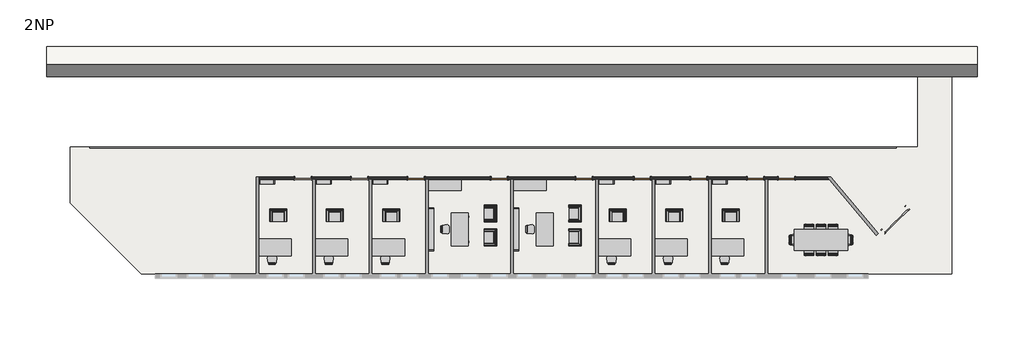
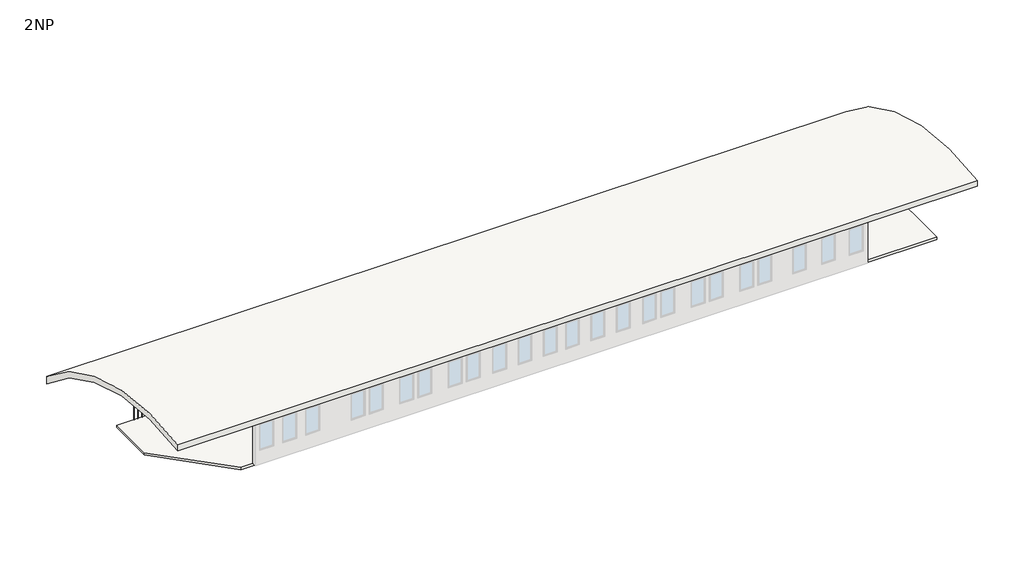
# One storey, part 2 of 2: 45 furniture elements, 7 doors, 1 railing, 1 roof, 1 slab, 1 wall.
"""IFC4 building model written with IfcOpenShell, lengths in millimetres."""

from ifc_helpers import new_model, si_unit, point, frame, frame_2d, origin, place, context, project, spatial, polyline, circle_curve, trimmed, segment, composite_curve, outline, extrude, faceted_brep, transform, mapped, element, save
from components import m_single_flush_0915_x_2032mm_1012e85d, m_single_flush_0915_x_2032mm_d7cd756b, chair_desk_4_chair_task_arms_3b363349, chair_desk_5_chair_task_b7f3823b, m_chair_corbu_m_chair_corbu_2764bdef, m_chair_desk_desk_chair_ccc35c8f, m_credenza_1830_x_0610mm_1080a9db, m_desk_1830_x_915mm_d81ff609, m_shelving_0915_x_0254_x_1830mm_1d5e155e, m_shelving_2440_x_0305_x_2134mm_59c1a9e4, table_conference_w_chairs_1200_x_3050mm_930714f4, railing_1100mm_11e5196f, railing_1100mm_f5e6f717

model = new_model("IFC4")

# Units and contexts
model_context = context("Model", 3, world=origin())
ifc_project = project(units=[si_unit("LENGTHUNIT", "METRE", prefix="MILLI")], contexts=[model_context])

# Site, building, storey
site = spatial("IfcSite", under=ifc_project)
building = spatial("IfcBuilding", under=site)
storey = spatial("IfcBuildingStorey", under=building, Name="2NP", Elevation=4000.0)

# Doors
placement = place(None, origin())
m_single_flush_0915_x_2032mm_shape = m_single_flush_0915_x_2032mm_1012e85d(model_context)
element("IfcDoor", 1, ObjectType="M_Single-Flush : 0915 x 2032mm", at=placement, inside=storey, context=model_context, shape_type="MappedRepresentation", body=[
    mapped(m_single_flush_0915_x_2032mm_shape, transform((8162.4255273, 791.5551306, 4000.0), x_axis=(1.0, 0.0, 0.0), y_axis=(0.0, 1.0, 0.0), z_axis=(0.0, 0.0, 1.0))),
])
element("IfcDoor", 2, ObjectType="M_Single-Flush : 0915 x 2032mm", at=placement, inside=storey, context=model_context, shape_type="MappedRepresentation", body=[
    mapped(m_single_flush_0915_x_2032mm_shape, transform((24162.4255273, 791.5551306, 4000.0), x_axis=(1.0, 0.0, 0.0), y_axis=(0.0, 1.0, 0.0), z_axis=(0.0, 0.0, 1.0))),
])
element("IfcDoor", 3, ObjectType="M_Single-Flush : 0915 x 2032mm", at=placement, inside=storey, context=model_context, shape_type="MappedRepresentation", body=[
    mapped(m_single_flush_0915_x_2032mm_shape, transform((27362.4255273, 791.5551306, 4000.0), x_axis=(1.0, 0.0, 0.0), y_axis=(0.0, 1.0, 0.0), z_axis=(0.0, 0.0, 1.0))),
])
element("IfcDoor", 4, ObjectType="M_Single-Flush : 0915 x 2032mm", at=placement, inside=storey, context=model_context, shape_type="MappedRepresentation", body=[
    mapped(m_single_flush_0915_x_2032mm_shape, transform((12862.4255273, 791.5551306, 4000.0), x_axis=(1.0, 0.0, 0.0), y_axis=(0.0, 1.0, 0.0), z_axis=(0.0, 0.0, 1.0))),
])
element("IfcDoor", 5, ObjectType="M_Single-Flush : 0915 x 2032mm", at=placement, inside=storey, context=model_context, shape_type="MappedRepresentation", body=[
    mapped(m_single_flush_0915_x_2032mm_shape, transform((20962.4255273, 791.5551306, 4000.0), x_axis=(1.0, 0.0, 0.0), y_axis=(0.0, 1.0, 0.0), z_axis=(0.0, 0.0, 1.0))),
])
element("IfcDoor", 6, ObjectType="M_Single-Flush : 0915 x 2032mm", at=placement, inside=storey, context=model_context, shape_type="MappedRepresentation", body=[
    mapped(m_single_flush_0915_x_2032mm_shape, transform((17662.4255273, 791.5551306, 4000.0), x_axis=(1.0, 0.0, 0.0), y_axis=(0.0, 1.0, 0.0), z_axis=(0.0, 0.0, 1.0))),
])
m_single_flush_0915_x_2032mm_2_shape = m_single_flush_0915_x_2032mm_d7cd756b(model_context)
element("IfcDoor", 7, ObjectType="M_Single-Flush : 0915 x 2032mm", at=placement, inside=storey, context=model_context, shape_type="MappedRepresentation", body=[
    mapped(m_single_flush_0915_x_2032mm_2_shape, transform((29115.9255273, 791.5551306, 4000.0), x_axis=(-1.0, 0.0, 0.0), y_axis=(0.0, -1.0, 0.0), z_axis=(0.0, 0.0, 1.0))),
])

# Furniture
chair_desk_4_chair_task_arms_shape = chair_desk_4_chair_task_arms_3b363349(model_context)
element("IfcFurniture", 8, ObjectType="Chair - Desk (4) : Chair-Task Arms", at=placement, inside=storey, context=model_context, shape_type="MappedRepresentation", body=[
    mapped(chair_desk_4_chair_task_arms_shape, transform((32615.6301008, -2847.5591131, 4000.0), x_axis=(0.0, 1.0, 0.0), y_axis=(-1.0, 0.0, 0.0), z_axis=(0.0, 0.0, 1.0))),
])
element("IfcFurniture", 9, ObjectType="Chair - Desk (4) : Chair-Task Arms", at=placement, inside=storey, context=model_context, shape_type="MappedRepresentation", body=[
    mapped(chair_desk_4_chair_task_arms_shape, transform((29527.7382975, -2565.5774738, 4000.0), x_axis=(0.0, -1.0000000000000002, 0.0), y_axis=(1.0000000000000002, 0.0, 0.0), z_axis=(0.0, 0.0, 1.0))),
])
chair_desk_5_chair_task_shape = chair_desk_5_chair_task_b7f3823b(model_context)
element("IfcFurniture", 10, ObjectType="Chair - Desk (5) : Chair-Task", at=placement, inside=storey, context=model_context, shape_type="MappedRepresentation", body=[
    mapped(chair_desk_5_chair_task_shape, transform((31897.6750188, -2087.6223918, 4000.0), x_axis=(-1.0, 0.0, 0.0), y_axis=(0.0, -1.0, 0.0), z_axis=(0.0, 0.0, 1.0))),
])
element("IfcFurniture", 11, ObjectType="Chair - Desk (5) : Chair-Task", at=placement, inside=storey, context=model_context, shape_type="MappedRepresentation", body=[
    mapped(chair_desk_5_chair_task_shape, transform((31615.6933794, -3325.5141951, 4000.0), x_axis=(1.0, 0.0, 0.0), y_axis=(0.0, 1.0, 0.0), z_axis=(0.0, 0.0, 1.0))),
])
element("IfcFurniture", 12, ObjectType="Chair - Desk (5) : Chair-Task", at=placement, inside=storey, context=model_context, shape_type="MappedRepresentation", body=[
    mapped(chair_desk_5_chair_task_shape, transform((30527.9250188, -2087.6223918, 4000.0), x_axis=(-1.0, 0.0, 0.0), y_axis=(0.0, -1.0, 0.0), z_axis=(0.0, 0.0, 1.0))),
])
element("IfcFurniture", 13, ObjectType="Chair - Desk (5) : Chair-Task", at=placement, inside=storey, context=model_context, shape_type="MappedRepresentation", body=[
    mapped(chair_desk_5_chair_task_shape, transform((30245.9433794, -3325.5141951, 4000.0), x_axis=(1.0, 0.0, 0.0), y_axis=(0.0, 1.0, 0.0), z_axis=(0.0, 0.0, 1.0))),
])
element("IfcFurniture", 14, ObjectType="Chair - Desk (5) : Chair-Task", at=placement, inside=storey, context=model_context, shape_type="MappedRepresentation", body=[
    mapped(chair_desk_5_chair_task_shape, transform((31212.8000188, -2087.6223918, 4000.0), x_axis=(-1.0, 0.0, 0.0), y_axis=(0.0, -1.0, 0.0), z_axis=(0.0, 0.0, 1.0))),
])
element("IfcFurniture", 15, ObjectType="Chair - Desk (5) : Chair-Task", at=placement, inside=storey, context=model_context, shape_type="MappedRepresentation", body=[
    mapped(chair_desk_5_chair_task_shape, transform((30930.8183794, -3325.5141951, 4000.0), x_axis=(1.0, 0.0, 0.0), y_axis=(0.0, 1.0, 0.0), z_axis=(0.0, 0.0, 1.0))),
])
m_chair_corbu_m_chair_corbu_shape = m_chair_corbu_m_chair_corbu_2764bdef(model_context)
element("IfcFurniture", 16, ObjectType="M_Chair-Corbu : M_Chair-Corbu", at=placement, inside=storey, context=model_context, shape_type="MappedRepresentation", body=[
    mapped(m_chair_corbu_m_chair_corbu_shape, transform((6189.3517568, -1787.3719186, 4000.0), x_axis=(1.0, 0.0, 0.0), y_axis=(0.0, 1.0, 0.0), z_axis=(0.0, 0.0, 1.0))),
])
element("IfcFurniture", 17, ObjectType="M_Chair-Corbu : M_Chair-Corbu", at=placement, inside=storey, context=model_context, shape_type="MappedRepresentation", body=[
    mapped(m_chair_corbu_m_chair_corbu_shape, transform((-210.6482432, -1787.3719186, 4000.0), x_axis=(1.0, 0.0, 0.0), y_axis=(0.0, 1.0, 0.0), z_axis=(0.0, 0.0, 1.0))),
])
element("IfcFurniture", 18, ObjectType="M_Chair-Corbu : M_Chair-Corbu", at=placement, inside=storey, context=model_context, shape_type="MappedRepresentation", body=[
    mapped(m_chair_corbu_m_chair_corbu_shape, transform((2989.3517568, -1787.3719186, 4000.0), x_axis=(1.0, 0.0, 0.0), y_axis=(0.0, 1.0, 0.0), z_axis=(0.0, 0.0, 1.0))),
])
element("IfcFurniture", 19, ObjectType="M_Chair-Corbu : M_Chair-Corbu", at=placement, inside=storey, context=model_context, shape_type="MappedRepresentation", body=[
    mapped(m_chair_corbu_m_chair_corbu_shape, transform((22189.3517568, -1787.3719186, 4000.0), x_axis=(1.0, 0.0, 0.0), y_axis=(0.0, 1.0, 0.0), z_axis=(0.0, 0.0, 1.0))),
])
element("IfcFurniture", 20, ObjectType="M_Chair-Corbu : M_Chair-Corbu", at=placement, inside=storey, context=model_context, shape_type="MappedRepresentation", body=[
    mapped(m_chair_corbu_m_chair_corbu_shape, transform((25389.3517568, -1787.3719186, 4000.0), x_axis=(1.0, 0.0, 0.0), y_axis=(0.0, 1.0, 0.0), z_axis=(0.0, 0.0, 1.0))),
])
element("IfcFurniture", 21, ObjectType="M_Chair-Corbu : M_Chair-Corbu", at=placement, inside=storey, context=model_context, shape_type="MappedRepresentation", body=[
    mapped(m_chair_corbu_m_chair_corbu_shape, transform((11895.9484781, -647.2210989, 4000.0), x_axis=(0.0, -1.0, 0.0), y_axis=(1.0, 0.0, 0.0), z_axis=(0.0, 0.0, 1.0))),
])
element("IfcFurniture", 22, ObjectType="M_Chair-Corbu : M_Chair-Corbu", at=placement, inside=storey, context=model_context, shape_type="MappedRepresentation", body=[
    mapped(m_chair_corbu_m_chair_corbu_shape, transform((18989.3517568, -1787.3719186, 4000.0), x_axis=(1.0, 0.0, 0.0), y_axis=(0.0, 1.0, 0.0), z_axis=(0.0, 0.0, 1.0))),
])
element("IfcFurniture", 23, ObjectType="M_Chair-Corbu : M_Chair-Corbu", at=placement, inside=storey, context=model_context, shape_type="MappedRepresentation", body=[
    mapped(m_chair_corbu_m_chair_corbu_shape, transform((11895.9484781, -1992.4210989, 4000.0), x_axis=(0.0, -1.0, 0.0), y_axis=(1.0, 0.0, 0.0), z_axis=(0.0, 0.0, 1.0))),
])
element("IfcFurniture", 24, ObjectType="M_Chair-Corbu : M_Chair-Corbu", at=placement, inside=storey, context=model_context, shape_type="MappedRepresentation", body=[
    mapped(m_chair_corbu_m_chair_corbu_shape, transform((16695.9484781, -647.2210989, 4000.0), x_axis=(0.0, -1.0, 0.0), y_axis=(1.0, 0.0, 0.0), z_axis=(0.0, 0.0, 1.0))),
])
element("IfcFurniture", 25, ObjectType="M_Chair-Corbu : M_Chair-Corbu", at=placement, inside=storey, context=model_context, shape_type="MappedRepresentation", body=[
    mapped(m_chair_corbu_m_chair_corbu_shape, transform((16695.9484781, -1992.4210989, 4000.0), x_axis=(0.0, -1.0, 0.0), y_axis=(1.0, 0.0, 0.0), z_axis=(0.0, 0.0, 1.0))),
])
m_chair_desk_desk_chair_shape = m_chair_desk_desk_chair_ccc35c8f(model_context)
element("IfcFurniture", 26, ObjectType="M_Chair-Desk : Desk Chair", at=placement, inside=storey, context=model_context, shape_type="MappedRepresentation", body=[
    mapped(m_chair_desk_desk_chair_shape, transform((19.9255273, -4017.6948694, 4000.0), x_axis=(1.0, 0.0, 0.0), y_axis=(0.0, 1.0, 0.0), z_axis=(0.0, 0.0, 1.0))),
])
element("IfcFurniture", 27, ObjectType="M_Chair-Desk : Desk Chair", at=placement, inside=storey, context=model_context, shape_type="MappedRepresentation", body=[
    mapped(m_chair_desk_desk_chair_shape, transform((3219.9255273, -4017.6948694, 4000.0), x_axis=(1.0, 0.0, 0.0), y_axis=(0.0, 1.0, 0.0), z_axis=(0.0, 0.0, 1.0))),
])
element("IfcFurniture", 28, ObjectType="M_Chair-Desk : Desk Chair", at=placement, inside=storey, context=model_context, shape_type="MappedRepresentation", body=[
    mapped(m_chair_desk_desk_chair_shape, transform((6419.9255273, -4017.6948694, 4000.0), x_axis=(1.0, 0.0, 0.0), y_axis=(0.0, 1.0, 0.0), z_axis=(0.0, 0.0, 1.0))),
])
element("IfcFurniture", 29, ObjectType="M_Chair-Desk : Desk Chair", at=placement, inside=storey, context=model_context, shape_type="MappedRepresentation", body=[
    mapped(m_chair_desk_desk_chair_shape, transform((22419.9255273, -4017.6948694, 4000.0), x_axis=(1.0, 0.0, 0.0), y_axis=(0.0, 1.0, 0.0), z_axis=(0.0, 0.0, 1.0))),
])
element("IfcFurniture", 30, ObjectType="M_Chair-Desk : Desk Chair", at=placement, inside=storey, context=model_context, shape_type="MappedRepresentation", body=[
    mapped(m_chair_desk_desk_chair_shape, transform((25619.9255273, -4017.6948694, 4000.0), x_axis=(1.0, 0.0, 0.0), y_axis=(0.0, 1.0, 0.0), z_axis=(0.0, 0.0, 1.0))),
])
element("IfcFurniture", 31, ObjectType="M_Chair-Desk : Desk Chair", at=placement, inside=storey, context=model_context, shape_type="MappedRepresentation", body=[
    mapped(m_chair_desk_desk_chair_shape, transform((9635.1978774, -2107.9948694, 4000.0), x_axis=(0.0, -1.0, 0.0), y_axis=(1.0, 0.0, 0.0), z_axis=(0.0, 0.0, 1.0))),
])
element("IfcFurniture", 32, ObjectType="M_Chair-Desk : Desk Chair", at=placement, inside=storey, context=model_context, shape_type="MappedRepresentation", body=[
    mapped(m_chair_desk_desk_chair_shape, transform((19219.9255273, -4017.6948694, 4000.0), x_axis=(1.0, 0.0, 0.0), y_axis=(0.0, 1.0, 0.0), z_axis=(0.0, 0.0, 1.0))),
])
element("IfcFurniture", 33, ObjectType="M_Chair-Desk : Desk Chair", at=placement, inside=storey, context=model_context, shape_type="MappedRepresentation", body=[
    mapped(m_chair_desk_desk_chair_shape, transform((14435.1978774, -2107.9948694, 4000.0), x_axis=(0.0, -1.0, 0.0), y_axis=(1.0, 0.0, 0.0), z_axis=(0.0, 0.0, 1.0))),
])
m_credenza_1830_x_0610mm_shape = m_credenza_1830_x_0610mm_1080a9db(model_context)
element("IfcFurniture", 34, ObjectType="M_Credenza : 1830 x 0610mm", at=placement, inside=storey, context=model_context, shape_type="MappedRepresentation", body=[
    mapped(m_credenza_1830_x_0610mm_shape, transform((9713.881265, 412.7248027, 4000.0), x_axis=(1.0, 0.0, 0.0), y_axis=(0.0, 1.0, 0.0), z_axis=(0.0, 0.0, 1.0))),
])
element("IfcFurniture", 35, ObjectType="M_Credenza : 1830 x 0610mm", at=placement, inside=storey, context=model_context, shape_type="MappedRepresentation", body=[
    mapped(m_credenza_1830_x_0610mm_shape, transform((14513.881265, 412.7248027, 4000.0), x_axis=(1.0, 0.0, 0.0), y_axis=(0.0, 1.0, 0.0), z_axis=(0.0, 0.0, 1.0))),
])
m_desk_1830_x_915mm_shape = m_desk_1830_x_915mm_d81ff609(model_context)
element("IfcFurniture", 36, ObjectType="M_Desk : 1830 x 915mm", at=placement, inside=storey, context=model_context, shape_type="MappedRepresentation", body=[
    mapped(m_desk_1830_x_915mm_shape, transform((-741.5744727, -3592.6948694, 4000.0), x_axis=(1.0, 0.0, 0.0), y_axis=(0.0, 1.0, 0.0), z_axis=(0.0, 0.0, 1.0))),
])
element("IfcFurniture", 37, ObjectType="M_Desk : 1830 x 915mm", at=placement, inside=storey, context=model_context, shape_type="MappedRepresentation", body=[
    mapped(m_desk_1830_x_915mm_shape, transform((2458.4255273, -3592.6948694, 4000.0), x_axis=(1.0, 0.0, 0.0), y_axis=(0.0, 1.0, 0.0), z_axis=(0.0, 0.0, 1.0))),
])
element("IfcFurniture", 38, ObjectType="M_Desk : 1830 x 915mm", at=placement, inside=storey, context=model_context, shape_type="MappedRepresentation", body=[
    mapped(m_desk_1830_x_915mm_shape, transform((5658.4255273, -3592.6948694, 4000.0), x_axis=(1.0, 0.0, 0.0), y_axis=(0.0, 1.0, 0.0), z_axis=(0.0, 0.0, 1.0))),
])
element("IfcFurniture", 39, ObjectType="M_Desk : 1830 x 915mm", at=placement, inside=storey, context=model_context, shape_type="MappedRepresentation", body=[
    mapped(m_desk_1830_x_915mm_shape, transform((21658.4255273, -3592.6948694, 4000.0), x_axis=(1.0, 0.0, 0.0), y_axis=(0.0, 1.0, 0.0), z_axis=(0.0, 0.0, 1.0))),
])
element("IfcFurniture", 40, ObjectType="M_Desk : 1830 x 915mm", at=placement, inside=storey, context=model_context, shape_type="MappedRepresentation", body=[
    mapped(m_desk_1830_x_915mm_shape, transform((24858.4255273, -3592.6948694, 4000.0), x_axis=(1.0, 0.0, 0.0), y_axis=(0.0, 1.0, 0.0), z_axis=(0.0, 0.0, 1.0))),
])
element("IfcFurniture", 41, ObjectType="M_Desk : 1830 x 915mm", at=placement, inside=storey, context=model_context, shape_type="MappedRepresentation", body=[
    mapped(m_desk_1830_x_915mm_shape, transform((10176.162903, -1192.9948694, 4000.0), x_axis=(0.0, -1.0, 0.0), y_axis=(1.0, 0.0, 0.0), z_axis=(0.0, 0.0, 1.0))),
])
element("IfcFurniture", 42, ObjectType="M_Desk : 1830 x 915mm", at=placement, inside=storey, context=model_context, shape_type="MappedRepresentation", body=[
    mapped(m_desk_1830_x_915mm_shape, transform((18458.4255273, -3592.6948694, 4000.0), x_axis=(1.0, 0.0, 0.0), y_axis=(0.0, 1.0, 0.0), z_axis=(0.0, 0.0, 1.0))),
])
element("IfcFurniture", 43, ObjectType="M_Desk : 1830 x 915mm", at=placement, inside=storey, context=model_context, shape_type="MappedRepresentation", body=[
    mapped(m_desk_1830_x_915mm_shape, transform((14976.162903, -1192.9948694, 4000.0), x_axis=(0.0, -1.0, 0.0), y_axis=(1.0, 0.0, 0.0), z_axis=(0.0, 0.0, 1.0))),
])
m_shelving_0915_x_0254_x_1830mm_shape = m_shelving_0915_x_0254_x_1830mm_1d5e155e(model_context)
element("IfcFurniture", 44, ObjectType="M_Shelving : 0915 x 0254 x 1830mm", at=placement, inside=storey, context=model_context, shape_type="MappedRepresentation", body=[
    mapped(m_shelving_0915_x_0254_x_1830mm_shape, transform((-284.0744727, 290.5051306, 4000.0), x_axis=(-1.0, 0.0, 0.0), y_axis=(0.0, -1.0, 0.0), z_axis=(0.0, 0.0, 1.0))),
])
element("IfcFurniture", 45, ObjectType="M_Shelving : 0915 x 0254 x 1830mm", at=placement, inside=storey, context=model_context, shape_type="MappedRepresentation", body=[
    mapped(m_shelving_0915_x_0254_x_1830mm_shape, transform((2915.9255273, 290.5051306, 4000.0), x_axis=(-1.0, 0.0, 0.0), y_axis=(0.0, -1.0, 0.0), z_axis=(0.0, 0.0, 1.0))),
])
element("IfcFurniture", 46, ObjectType="M_Shelving : 0915 x 0254 x 1830mm", at=placement, inside=storey, context=model_context, shape_type="MappedRepresentation", body=[
    mapped(m_shelving_0915_x_0254_x_1830mm_shape, transform((6115.9255273, 290.5051306, 4000.0), x_axis=(-1.0, 0.0, 0.0), y_axis=(0.0, -1.0, 0.0), z_axis=(0.0, 0.0, 1.0))),
])
element("IfcFurniture", 47, ObjectType="M_Shelving : 0915 x 0254 x 1830mm", at=placement, inside=storey, context=model_context, shape_type="MappedRepresentation", body=[
    mapped(m_shelving_0915_x_0254_x_1830mm_shape, transform((22115.9255273, 290.5051306, 4000.0), x_axis=(-1.0, 0.0, 0.0), y_axis=(0.0, -1.0, 0.0), z_axis=(0.0, 0.0, 1.0))),
])
element("IfcFurniture", 48, ObjectType="M_Shelving : 0915 x 0254 x 1830mm", at=placement, inside=storey, context=model_context, shape_type="MappedRepresentation", body=[
    mapped(m_shelving_0915_x_0254_x_1830mm_shape, transform((25315.9255273, 290.5051306, 4000.0), x_axis=(-1.0, 0.0, 0.0), y_axis=(0.0, -1.0, 0.0), z_axis=(0.0, 0.0, 1.0))),
])
element("IfcFurniture", 49, ObjectType="M_Shelving : 0915 x 0254 x 1830mm", at=placement, inside=storey, context=model_context, shape_type="MappedRepresentation", body=[
    mapped(m_shelving_0915_x_0254_x_1830mm_shape, transform((18915.9255273, 290.5051306, 4000.0), x_axis=(-1.0, 0.0, 0.0), y_axis=(0.0, -1.0, 0.0), z_axis=(0.0, 0.0, 1.0))),
])
m_shelving_2440_x_0305_x_2134mm_shape = m_shelving_2440_x_0305_x_2134mm_59c1a9e4(model_context)
element("IfcFurniture", 50, ObjectType="M_Shelving : 2440 x 0305 x 2134mm", at=placement, inside=storey, context=model_context, shape_type="MappedRepresentation", body=[
    mapped(m_shelving_2440_x_0305_x_2134mm_shape, transform((9315.7255273, -2107.9948694, 4000.0), x_axis=(0.0, -1.0, 0.0), y_axis=(1.0, 0.0, 0.0), z_axis=(0.0, 0.0, 1.0))),
])
element("IfcFurniture", 51, ObjectType="M_Shelving : 2440 x 0305 x 2134mm", at=placement, inside=storey, context=model_context, shape_type="MappedRepresentation", body=[
    mapped(m_shelving_2440_x_0305_x_2134mm_shape, transform((14115.7255273, -2107.9948694, 4000.0), x_axis=(0.0, -1.0, 0.0), y_axis=(1.0, 0.0, 0.0), z_axis=(0.0, 0.0, 1.0))),
])
table_conference_w_chairs_1200_x_3050mm_shape = table_conference_w_chairs_1200_x_3050mm_930714f4(model_context)
element("IfcFurniture", 52, ObjectType="Table - Conference w Chairs : 1200 x 3050mm", at=placement, inside=storey, context=model_context, shape_type="MappedRepresentation", body=[
    mapped(table_conference_w_chairs_1200_x_3050mm_shape, transform((31071.6841991, -2706.5682935, 4000.0), x_axis=(-1.0, 0.0, 0.0), y_axis=(0.0, -1.0, 0.0), z_axis=(0.0, 0.0, 1.0))),
])

# Railing
railing_1100mm_shape = railing_1100mm_11e5196f(model_context)
railing_1100mm_2_shape = railing_1100mm_f5e6f717(model_context)
element("IfcRailing", 53, ObjectType="1100mm", at=placement, inside=storey, context=model_context, shape_type="MappedRepresentation", body=[
    mapped(railing_1100mm_shape, transform((0.0, 0.0, 0.0), x_axis=(1.0, 0.0, 0.0), y_axis=(0.0, 1.0, 0.0), z_axis=(0.0, 0.0, 1.0))),
    mapped(railing_1100mm_2_shape, transform((0.0, 0.0, 0.0), x_axis=(1.0, 0.0, 0.0), y_axis=(0.0, 1.0, 0.0), z_axis=(0.0, 0.0, 1.0))),
])

# Roof
element("IfcRoof", 54, ObjectType="Generic - 400mm", at=placement, inside=storey, context=model_context, shape_type="SweptSolid", body=[
    extrude(outline(composite_curve([segment(trimmed(circle_curve(frame_2d((-3782.5530793, -9232.9575956)), 18209.3296337), [point((-6745.0106033, 8733.7764183))], [point((8250.6718533, 4433.8336676))], False, "CARTESIAN"), True, "CONTINUOUS"), segment(polyline([(8250.6718533, 4433.8336676), (8250.6718533, 3896.1596529)]), True, "CONTINUOUS"), segment(trimmed(circle_curve(frame_2d((-3782.5530793, -9232.9575956)), 17809.3296337), [point((8250.6718533, 3896.1596529))], [point((-6745.0106033, 8328.2515718))], True, "CARTESIAN"), True, "CONTINUOUS"), segment(polyline([(-6745.0106033, 8328.2515718), (-6745.0106033, 8733.7764183)]), True, "CONTINUOUS")], self_intersect=False)), frame((-12744.3244727, 0.0, 0.0), z_axis=(1.0, 0.0, 0.0), x_axis=(0.0, 1.0, 0.0)), (0.0, 0.0, 1.0), 52667.0),
])

# Slab
element("IfcSlab", 55, ObjectType="Generic 150mm", at=placement, inside=storey, context=model_context, shape_type="SweptSolid", body=[
    extrude(outline(polyline([(-11410.8244727, -601.928028), (-11410.8244727, 2541.5551306), (36558.4255273, 2541.5551306), (36558.4255273, 7108.0551306), (38455.6755273, 7108.0551306), (38455.6755273, -4624.9448694), (-7387.8076313, -4624.9448694), (-11410.8244727, -601.928028)])), frame((0.0, 0.0, 3850.0), z_axis=(0.0, 0.0, 1.0), x_axis=(1.0, 0.0, 0.0)), (0.0, 0.0, 1.0), 150.0),
])

# Wall
element("IfcWall", 56, ObjectType="Interior - 138mm Partition (1-hr)", at=placement, inside=storey, context=model_context, shape_type="Brep", body=[
    faceted_brep([(20504.9255273, 860.8051306, 4000.0), (18119.9255273, 860.8051306, 4000.0), (18119.9255273, 860.8051306, 6032.0), (17204.9255273, 860.8051306, 6032.0), (17204.9255273, 860.8051306, 4000.0), (13319.9255273, 860.8051306, 4000.0), (13319.9255273, 860.8051306, 6032.0), (12404.9255273, 860.8051306, 6032.0), (12404.9255273, 860.8051306, 4000.0), (8619.9255273, 860.8051306, 4000.0), (8619.9255273, 860.8051306, 6032.0), (7704.9255273, 860.8051306, 6032.0), (7704.9255273, 860.8051306, 4000.0), (5419.9255273, 860.8051306, 4000.0), (5419.9255273, 860.8051306, 6032.0), (4504.9255273, 860.8051306, 6032.0), (4504.9255273, 860.8051306, 4000.0), (2219.9255273, 860.8051306, 4000.0), (2219.9255273, 860.8051306, 6032.0), (1304.9255273, 860.8051306, 6032.0), (1304.9255273, 860.8051306, 4000.0), (-741.5744727, 860.8051306, 4000.0), (-741.5744727, 860.8051306, 7700.0), (31432.8028061, 860.8051306, 7700.0), (31432.8028061, 860.8051306, 4000.0), (29573.4255273, 860.8051306, 4000.0), (29573.4255273, 860.8051306, 6032.0), (28658.4255273, 860.8051306, 6032.0), (28658.4255273, 860.8051306, 4000.0), (27819.9255273, 860.8051306, 4000.0), (27819.9255273, 860.8051306, 6032.0), (26904.9255273, 860.8051306, 6032.0), (26904.9255273, 860.8051306, 4000.0), (24619.9255273, 860.8051306, 4000.0), (24619.9255273, 860.8051306, 6032.0), (23704.9255273, 860.8051306, 6032.0), (23704.9255273, 860.8051306, 4000.0), (21419.9255273, 860.8051306, 4000.0), (21419.9255273, 860.8051306, 6032.0), (20504.9255273, 860.8051306, 6032.0), (18119.9255273, 722.3051306, 6032.0), (18119.9255273, 722.3051306, 4000.0), (18319.9255273, 722.3051306, 4000.0), (18458.4255273, 722.3051306, 4000.0), (20504.9255273, 722.3051306, 4000.0), (20504.9255273, 722.3051306, 6032.0), (21419.9255273, 722.3051306, 6032.0), (21419.9255273, 722.3051306, 4000.0), (21519.9255273, 722.3051306, 4000.0), (21658.4255273, 722.3051306, 4000.0), (23704.9255273, 722.3051306, 4000.0), (23704.9255273, 722.3051306, 6032.0), (24619.9255273, 722.3051306, 6032.0), (24619.9255273, 722.3051306, 4000.0), (24719.9255273, 722.3051306, 4000.0), (24858.4255273, 722.3051306, 4000.0), (26904.9255273, 722.3051306, 4000.0), (26904.9255273, 722.3051306, 6032.0), (27819.9255273, 722.3051306, 6032.0), (27819.9255273, 722.3051306, 4000.0), (27919.9255273, 722.3051306, 4000.0), (28058.4255273, 722.3051306, 4000.0), (28658.4255273, 722.3051306, 4000.0), (28658.4255273, 722.3051306, 6032.0), (29573.4255273, 722.3051306, 6032.0), (29573.4255273, 722.3051306, 4000.0), (31549.018105, 722.3051306, 4000.0), (31549.018105, 722.3051306, 7700.0), (28058.4255273, 722.3051306, 7700.0), (27919.9255273, 722.3051306, 7700.0), (24858.4255273, 722.3051306, 7700.0), (24719.9255273, 722.3051306, 7700.0), (21658.4255273, 722.3051306, 7700.0), (21519.9255273, 722.3051306, 7700.0), (18458.4255273, 722.3051306, 7700.0), (18319.9255273, 722.3051306, 7700.0), (13658.4255273, 722.3051306, 7700.0), (13519.9255273, 722.3051306, 7700.0), (8858.4255273, 722.3051306, 7700.0), (8719.9255273, 722.3051306, 7700.0), (5658.4255273, 722.3051306, 7700.0), (5519.9255273, 722.3051306, 7700.0), (2458.4255273, 722.3051306, 7700.0), (2319.9255273, 722.3051306, 7700.0), (-741.5744727, 722.3051306, 7700.0), (-741.5744727, 722.3051306, 4000.0), (1304.9255273, 722.3051306, 4000.0), (1304.9255273, 722.3051306, 6032.0), (2219.9255273, 722.3051306, 6032.0), (2219.9255273, 722.3051306, 4000.0), (2319.9255273, 722.3051306, 4000.0), (2458.4255273, 722.3051306, 4000.0), (4504.9255273, 722.3051306, 4000.0), (4504.9255273, 722.3051306, 6032.0), (5419.9255273, 722.3051306, 6032.0), (5419.9255273, 722.3051306, 4000.0), (5519.9255273, 722.3051306, 4000.0), (5658.4255273, 722.3051306, 4000.0), (7704.9255273, 722.3051306, 4000.0), (7704.9255273, 722.3051306, 6032.0), (8619.9255273, 722.3051306, 6032.0), (8619.9255273, 722.3051306, 4000.0), (8719.9255273, 722.3051306, 4000.0), (8858.4255273, 722.3051306, 4000.0), (12404.9255273, 722.3051306, 4000.0), (12404.9255273, 722.3051306, 6032.0), (13319.9255273, 722.3051306, 6032.0), (13319.9255273, 722.3051306, 4000.0), (13519.9255273, 722.3051306, 4000.0), (13658.4255273, 722.3051306, 4000.0), (17204.9255273, 722.3051306, 4000.0), (17204.9255273, 722.3051306, 6032.0)], [[[0, 1, 2, 3, 4, 5, 6, 7, 8, 9, 10, 11, 12, 13, 14, 15, 16, 17, 18, 19, 20, 21, 22, 23, 24, 25, 26, 27, 28, 29, 30, 31, 32, 33, 34, 35, 36, 37, 38, 39]], [[40, 41, 42, 43, 44, 45, 46, 47, 48, 49, 50, 51, 52, 53, 54, 55, 56, 57, 58, 59, 60, 61, 62, 63, 64, 65, 66, 67, 68, 69, 70, 71, 72, 73, 74, 75, 76, 77, 78, 79, 80, 81, 82, 83, 84, 85, 86, 87, 88, 89, 90, 91, 92, 93, 94, 95, 96, 97, 98, 99, 100, 101, 102, 103, 104, 105, 106, 107, 108, 109, 110, 111]], [[62, 61, 60, 59, 29, 28]], [[25, 24, 66, 65]], [[86, 85, 21, 20]], [[92, 91, 90, 89, 17, 16]], [[98, 97, 96, 95, 13, 12]], [[50, 49, 48, 47, 37, 36]], [[56, 55, 54, 53, 33, 32]], [[104, 103, 102, 101, 9, 8]], [[44, 43, 42, 41, 1, 0]], [[110, 109, 108, 107, 5, 4]], [[23, 22, 84, 83, 82, 81, 80, 79, 78, 77, 76, 75, 74, 73, 72, 71, 70, 69, 68, 67]], [[24, 23, 67, 66]], [[22, 21, 85, 84]], [[63, 62, 28, 27]], [[64, 63, 27, 26]], [[65, 64, 26, 25]], [[18, 17, 89, 88]], [[19, 18, 88, 87]], [[20, 19, 87, 86]], [[14, 13, 95, 94]], [[15, 14, 94, 93]], [[16, 15, 93, 92]], [[10, 9, 101, 100]], [[11, 10, 100, 99]], [[12, 11, 99, 98]], [[34, 33, 53, 52]], [[35, 34, 52, 51]], [[36, 35, 51, 50]], [[30, 29, 59, 58]], [[31, 30, 58, 57]], [[32, 31, 57, 56]], [[6, 5, 107, 106]], [[7, 6, 106, 105]], [[8, 7, 105, 104]], [[38, 37, 47, 46]], [[39, 38, 46, 45]], [[0, 39, 45, 44]], [[2, 1, 41, 40]], [[3, 2, 40, 111]], [[4, 3, 111, 110]]]),
])

save(model, "model.ifc")
